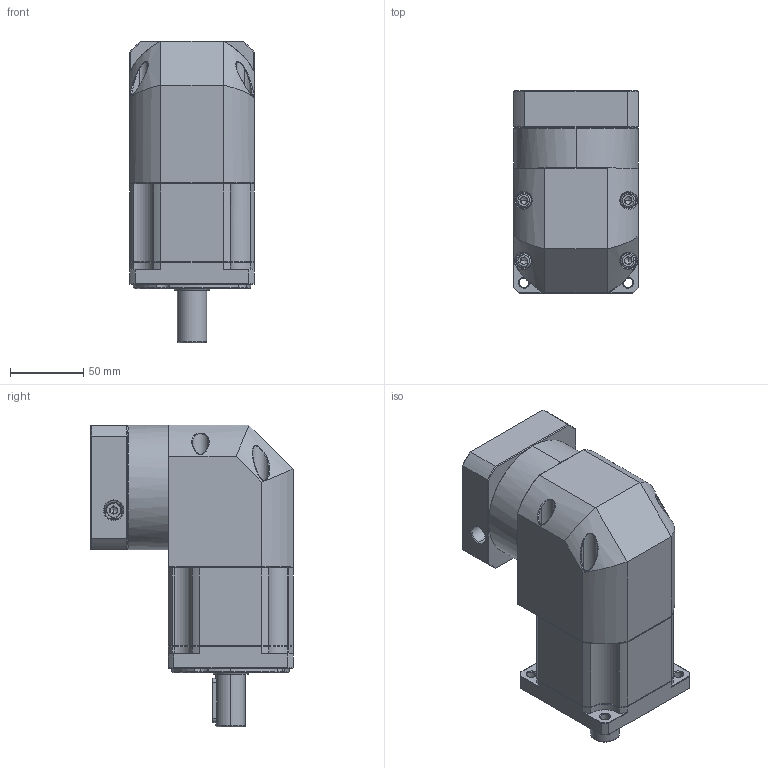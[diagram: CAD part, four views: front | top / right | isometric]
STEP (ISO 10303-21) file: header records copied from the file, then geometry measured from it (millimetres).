
FILE_DESCRIPTION (( 'STEP AP214' ), '1' );
FILE_NAME ('ZBR090-D20-L2-P2-14-73-69.6X69.6-M6.step', '2023-08-19T02:02:40', ( '' ), ( '' ), 'SwSTEP 2.0', 'SolidWorks 2016', '' );
FILE_SCHEMA (( 'AUTOMOTIVE_DESIGN' ));
Length unit declared in the file: millimetre
Products named in the file (1): ZBR090-D20-L2-P2-14-73-69.6X69.6-M6
Bounding box: 85 x 137.6 x 205.5 mm (x, y, z)
Volume: 1304922.4 mm3; surface area: 135550.4 mm2
Topology: 5 solids, 5 shells, 2401 faces, 6267 edges, 3958 vertices
Faces by surface type: plane 1157, cylinder 447, bspline 421, cone 350, torus 26
Entity records: 129260 total; most frequent: CARTESIAN_POINT 47563, ORIENTED_EDGE 12458, DIRECTION 9900, EDGE_CURVE 6229, VECTOR 3964, LINE 3964, VERTEX_POINT 3958, AXIS2_PLACEMENT_3D 2968
